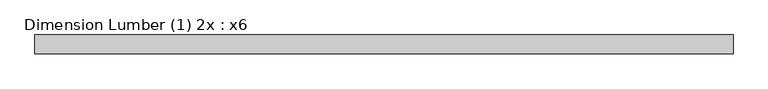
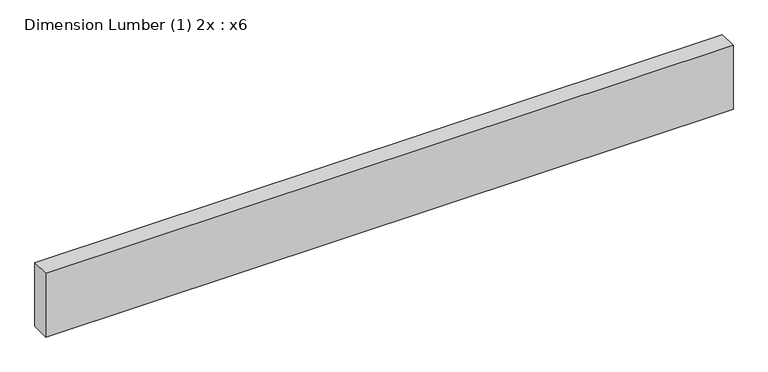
"""IFC4 building model written with IfcOpenShell, lengths in millimetres: beam geometry, Dimension Lumber (1) 2x : x6."""

import ifcopenshell
import ifcopenshell.guid

model = None  # the IFC model being written
_history = None  # IfcOwnerHistory: only IFC2X3 demands one
_inside = {}  # id of a spatial element -> (the spatial element, [elements in it])
_under = {}  # id of a project, library or spatial element -> (it, [spatial elements below it])
_declared = {}  # id of a project -> (the project, [libraries it declares])
_typed = {}  # id of a type object -> (the type object, [elements of that type])
_made_of = {}  # id of a material, layer set ... -> (it, [elements and type objects made of it])


def new_model(schema):
    """Start an empty IFC model of exactly this schema.

    Asked for "IFC4X3", IfcOpenShell would pick the latest addendum, in which some entities
    have other attributes; the version numbers below select the first issue.
    IFC2X3 requires an IfcOwnerHistory on every rooted entity: one is made here for all.
    """
    global model, _history
    if schema == "IFC4X3":
        model = ifcopenshell.file(schema_version=(4, 3, 0, 0))
    else:
        model = ifcopenshell.file(schema=schema)
    _inside.clear()
    _under.clear()
    _declared.clear()
    _typed.clear()
    _made_of.clear()
    _history = None
    if model.schema == "IFC2X3":
        org = make("IfcOrganization", Name="unknown")
        user = make(
            "IfcPersonAndOrganization",
            ThePerson=make("IfcPerson", FamilyName="unknown"),
            TheOrganization=org,
        )
        app = make(
            "IfcApplication",
            ApplicationDeveloper=org,
            Version="unknown",
            ApplicationFullName="unknown",
            ApplicationIdentifier="unknown",
        )
        _history = make(
            "IfcOwnerHistory",
            OwningUser=user,
            OwningApplication=app,
            ChangeAction="ADDED",
            CreationDate=0,
        )
    return model


def make(cls, **values):
    """One entity of the class cls with the attributes given. An attribute that is None is left unset."""
    return model.create_entity(
        cls, **{name: value for name, value in values.items() if value is not None}
    )


def rooted(cls, **values):
    """An entity with a GlobalId (a new one), such as an element, a storey or a relation."""
    return make(cls, GlobalId=ifcopenshell.guid.new(), OwnerHistory=_history, **values)


def si_unit(unit_type, name, prefix=None):
    """IfcSIUnit, for example si_unit("LENGTHUNIT", "METRE", prefix="MILLI")."""
    return make("IfcSIUnit", UnitType=unit_type, Prefix=prefix, Name=name)


def assignment(units):
    """IfcUnitAssignment: the units of a project."""
    return None if units is None else make("IfcUnitAssignment", Units=units)


def point(xyz):
    """IfcCartesianPoint."""
    return None if xyz is None else make("IfcCartesianPoint", Coordinates=xyz)


def direction(xyz):
    """IfcDirection."""
    return None if xyz is None else make("IfcDirection", DirectionRatios=xyz)


def frame(location, z_axis=None, x_axis=None):
    """IfcAxis2Placement3D, a coordinate frame: its origin and axes. An axis left out is left unset."""
    return make(
        "IfcAxis2Placement3D",
        Location=point(location),
        Axis=direction(z_axis),
        RefDirection=direction(x_axis),
    )


def origin():
    """The frame at (0, 0, 0) with its axes left unset."""
    return frame((0.0, 0.0, 0.0))


def place(relative_to, where):
    """IfcLocalPlacement: puts the frame where relative to a parent placement (None: the world)."""
    return make(
        "IfcLocalPlacement", PlacementRelTo=relative_to, RelativePlacement=where
    )


def context(
    kind, dimensions, precision=None, world=None, true_north=None, identifier=None
):
    """IfcGeometricRepresentationContext, for example the 3D "Model" context."""
    return make(
        "IfcGeometricRepresentationContext",
        ContextIdentifier=identifier,
        ContextType=kind,
        CoordinateSpaceDimension=dimensions,
        Precision=precision,
        WorldCoordinateSystem=world,
        TrueNorth=true_north,
    )


def project(units=None, contexts=None):
    """IfcProject with its units and contexts."""
    return rooted(
        "IfcProject",
        Name="project",
        RepresentationContexts=contexts,
        UnitsInContext=assignment(units),
    )


def spatial(cls, under=None, at=None, **own):
    """A site, building, storey or space (cls), placed at a placement, below another one or the project."""
    s = rooted(cls, ObjectPlacement=at, **own)
    if under is not None:
        _under.setdefault(under.id(), (under, []))[1].append(s)
    return s


def polyline(points):
    """IfcPolyline through the points."""
    return make("IfcPolyline", Points=[point(p) for p in points])


def outline(outer, holes=None, kind="AREA"):
    """IfcArbitraryClosedProfileDef: a profile drawn as a closed curve; with holes, ...WithVoids."""
    if holes is None:
        return make("IfcArbitraryClosedProfileDef", ProfileType=kind, OuterCurve=outer)
    return make(
        "IfcArbitraryProfileDefWithVoids",
        ProfileType=kind,
        OuterCurve=outer,
        InnerCurves=holes,
    )


def extrude(swept, where, along, depth):
    """IfcExtrudedAreaSolid: the profile swept, set in the frame where, extruded along a direction by depth."""
    return make(
        "IfcExtrudedAreaSolid",
        SweptArea=swept,
        Position=where,
        ExtrudedDirection=direction(along),
        Depth=depth,
    )


def shape(context_of_items, identifier, shape_type, items):
    """IfcShapeRepresentation: the items that make up one representation, for example the "Body"."""
    return make(
        "IfcShapeRepresentation",
        ContextOfItems=context_of_items,
        RepresentationIdentifier=identifier,
        RepresentationType=shape_type,
        Items=items,
    )


def source(mapping_origin, context_of_items, identifier, shape_type, items):
    """IfcRepresentationMap: a shape defined once, which mapped items show again and again."""
    return make(
        "IfcRepresentationMap",
        MappingOrigin=mapping_origin,
        MappedRepresentation=shape(context_of_items, identifier, shape_type, items),
    )


def transform(
    local_origin,
    x_axis=None,
    y_axis=None,
    z_axis=None,
    scale=None,
    scale2=None,
    scale3=None,
    uniform=True,
):
    """IfcCartesianTransformationOperator3D, or its non-uniform kind. x_axis, y_axis, z_axis: its Axis1, 2, 3."""
    if uniform:
        return make(
            "IfcCartesianTransformationOperator3D",
            Axis1=direction(x_axis),
            Axis2=direction(y_axis),
            LocalOrigin=point(local_origin),
            Scale=scale,
            Axis3=direction(z_axis),
        )
    return make(
        "IfcCartesianTransformationOperator3DnonUniform",
        Axis1=direction(x_axis),
        Axis2=direction(y_axis),
        LocalOrigin=point(local_origin),
        Scale=scale,
        Axis3=direction(z_axis),
        Scale2=scale2,
        Scale3=scale3,
    )


def mapped(mapping_source, mapping_target):
    """IfcMappedItem: shows the shape of a source again, moved by a transform."""
    return make(
        "IfcMappedItem", MappingSource=mapping_source, MappingTarget=mapping_target
    )


def made_of(thing, what):
    """Note that an element or type object is made of a material, layer set ...; save() writes the relation."""
    if what is not None:
        _made_of.setdefault(what.id(), (what, []))[1].append(thing)
    return thing


def element(
    cls,
    number,
    at=None,
    inside=None,
    cuts=None,
    type_object=None,
    material=None,
    context=None,
    identifier="Body",
    shape_type=None,
    held_by="IfcProductDefinitionShape",
    body=None,
    shapes=None,
    **own,
):
    """One element of the class cls, such as IfcWall. Its Tag is "e" and its number.

    at: its placement. inside: the storey or other place that contains it. cuts: it is an
    opening in that element (IfcRelVoidsElement). A single representation is given by context,
    identifier, shape_type and body (its items); several are given by shapes. held_by: the class
    of the entity that holds the representations. save() writes the other relations.
    """
    e = rooted(cls, Tag="e%d" % number, ObjectPlacement=at, **own)
    if body is not None:
        shapes = [shape(context, identifier, shape_type, body)]
    if shapes is not None:
        e.Representation = make(held_by, Representations=shapes)
    if inside is not None:
        _inside.setdefault(inside.id(), (inside, []))[1].append(e)
    if cuts is not None:
        rooted(
            "IfcRelVoidsElement", RelatingBuildingElement=cuts, RelatedOpeningElement=e
        )
    if type_object is not None:
        _typed.setdefault(type_object.id(), (type_object, []))[1].append(e)
    return made_of(e, material)


def aggregate(whole, parts):
    """IfcRelAggregates: a whole, such as a stair, and the parts it consists of."""
    return rooted("IfcRelAggregates", RelatingObject=whole, RelatedObjects=parts)


def save(model, path):
    """Write the relations noted so far, then the file.

    IfcRelAggregates (storeys below a building ...), IfcRelContainedInSpatialStructure (elements
    in a storey), IfcRelDefinesByType, IfcRelAssociatesMaterial and IfcRelDeclares: one each for
    every whole, place, type object, material and project.
    """
    for whole, parts in _under.values():
        aggregate(whole, parts)
    for where, things in _inside.values():
        rooted(
            "IfcRelContainedInSpatialStructure",
            RelatedElements=things,
            RelatingStructure=where,
        )
    for kind, things in _typed.values():
        rooted("IfcRelDefinesByType", RelatedObjects=things, RelatingType=kind)
    for what, things in _made_of.values():
        rooted("IfcRelAssociatesMaterial", RelatedObjects=things, RelatingMaterial=what)
    for by, libraries in _declared.values():
        rooted("IfcRelDeclares", RelatingContext=by, RelatedDefinitions=libraries)
    model.write(path)


def dimension_lumber_1_2x_x6_6abd7c7f(model_context):
    return source(origin(), model_context, "Body", "SweptSolid", [
        extrude(outline(polyline([(711.2, 19.05), (711.2, -19.05), (-711.2, -19.05), (-711.2, 19.05), (711.2, 19.05)])), frame((0.0, 0.0, -69.85), z_axis=(0.0, 0.0, 1.0), x_axis=(1.0, 0.0, 0.0)), (0.0, 0.0, 1.0), 139.7),
    ])


if __name__ == "__main__":
    model = new_model("IFC4")
    model_context = context("Model", 3, world=origin())
    ifc_project = project(units=[si_unit("LENGTHUNIT", "METRE", prefix="MILLI")], contexts=[model_context])
    site = spatial("IfcSite", under=ifc_project)
    building = spatial("IfcBuilding", under=site)
    placement = place(None, origin())
    dimension_lumber_1_2x_x6_shape = dimension_lumber_1_2x_x6_6abd7c7f(model_context)
    element("IfcBeam", 1, ObjectType="Dimension Lumber (1) 2x : x6", at=placement, inside=building, context=model_context, shape_type="MappedRepresentation", body=[
        mapped(dimension_lumber_1_2x_x6_shape, transform((0.0, 0.0, 0.0), x_axis=(1.0, 0.0, 0.0), y_axis=(0.0, 1.0, 0.0), z_axis=(0.0, 0.0, 1.0))),
    ])
    save(model, "model.ifc")
